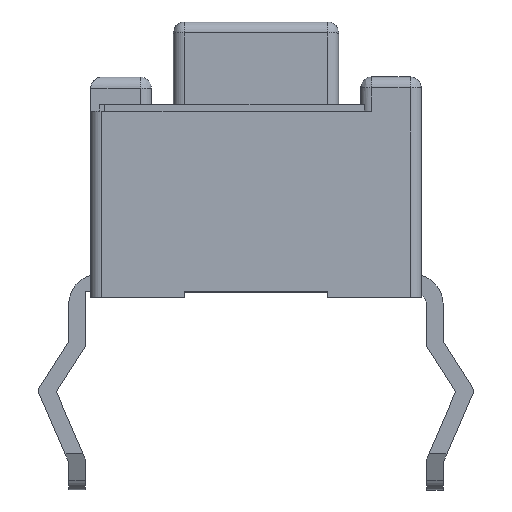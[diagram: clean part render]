
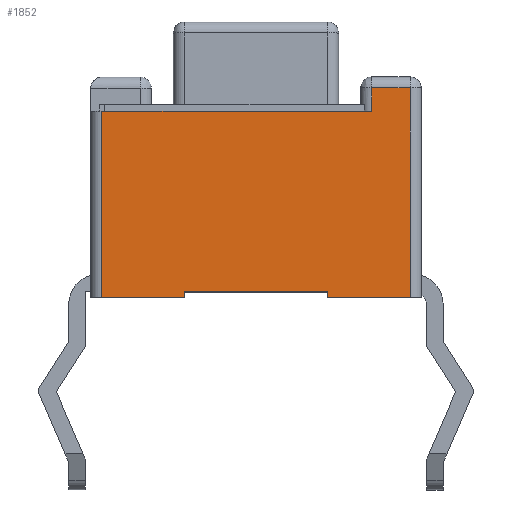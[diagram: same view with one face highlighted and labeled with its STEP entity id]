
A CAD part, top view. The second image highlights one B-rep face of the part: STEP entity #1852.
In plain terms, the highlighted planar face has unit normal (0, 0, 1).
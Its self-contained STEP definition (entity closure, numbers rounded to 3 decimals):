
#22 = VECTOR ( 'NONE', #3073, 1000. ) ;
#855 = EDGE_LOOP ( 'NONE', ( #1368, #1359, #1497, #1407, #1311, #1369, #1157, #1150, #1495, #1330 ) ) ;
#1150 = ORIENTED_EDGE ( 'NONE', *, *, #1809, .T. ) ;
#1157 = ORIENTED_EDGE ( 'NONE', *, *, #1808, .T. ) ;
#1168 = VERTEX_POINT ( 'NONE', #2563 ) ;
#1175 = VERTEX_POINT ( 'NONE', #2567 ) ;
#1214 = VERTEX_POINT ( 'NONE', #2584 ) ;
#1272 = VERTEX_POINT ( 'NONE', #2606 ) ;
#1311 = ORIENTED_EDGE ( 'NONE', *, *, #1684, .F. ) ;
#1328 = VERTEX_POINT ( 'NONE', #2623 ) ;
#1330 = ORIENTED_EDGE ( 'NONE', *, *, #1738, .F. ) ;
#1359 = ORIENTED_EDGE ( 'NONE', *, *, #1692, .F. ) ;
#1368 = ORIENTED_EDGE ( 'NONE', *, *, #1693, .F. ) ;
#1369 = ORIENTED_EDGE ( 'NONE', *, *, #1807, .F. ) ;
#1400 = VERTEX_POINT ( 'NONE', #2655 ) ;
#1407 = ORIENTED_EDGE ( 'NONE', *, *, #1686, .F. ) ;
#1470 = VERTEX_POINT ( 'NONE', #2687 ) ;
#1495 = ORIENTED_EDGE ( 'NONE', *, *, #1695, .F. ) ;
#1497 = ORIENTED_EDGE ( 'NONE', *, *, #1690, .F. ) ;
#1500 = VECTOR ( 'NONE', #2945, 1000. ) ;
#1503 = VECTOR ( 'NONE', #2939, 1000. ) ;
#1506 = VECTOR ( 'NONE', #2936, 1000. ) ;
#1507 = VECTOR ( 'NONE', #2930, 1000. ) ;
#1512 = VECTOR ( 'NONE', #2918, 1000. ) ;
#1515 = VECTOR ( 'NONE', #2912, 1000. ) ;
#1581 = VERTEX_POINT ( 'NONE', #2715 ) ;
#1591 = VERTEX_POINT ( 'NONE', #2722 ) ;
#1619 = VERTEX_POINT ( 'NONE', #2745 ) ;
#1684 = EDGE_CURVE ( 'NONE', #1400, #1214, #2910, .T. ) ;
#1686 = EDGE_CURVE ( 'NONE', #1214, #1272, #2916, .T. ) ;
#1690 = EDGE_CURVE ( 'NONE', #1272, #1328, #2928, .T. ) ;
#1692 = EDGE_CURVE ( 'NONE', #1328, #1168, #2934, .T. ) ;
#1693 = EDGE_CURVE ( 'NONE', #1168, #1470, #2937, .T. ) ;
#1695 = EDGE_CURVE ( 'NONE', #1591, #1175, #2943, .T. ) ;
#1738 = EDGE_CURVE ( 'NONE', #1470, #1591, #3071, .T. ) ;
#1807 = EDGE_CURVE ( 'NONE', #1619, #1400, #3794, .T. ) ;
#1808 = EDGE_CURVE ( 'NONE', #1619, #1581, #3797, .T. ) ;
#1809 = EDGE_CURVE ( 'NONE', #1581, #1175, #3800, .T. ) ;
#1852 = ADVANCED_FACE ( 'NONE', ( #3361 ), #3916, .F. ) ;
#2563 = CARTESIAN_POINT ( 'NONE',  ( 2.1, 3.8, -0.05 ) ) ;
#2567 = CARTESIAN_POINT ( 'NONE',  ( 1.3, 0., -0.05 ) ) ;
#2584 = CARTESIAN_POINT ( 'NONE',  ( -2.8, 0., -0.05 ) ) ;
#2606 = CARTESIAN_POINT ( 'NONE',  ( -2.8, 3.38, -0.05 ) ) ;
#2623 = CARTESIAN_POINT ( 'NONE',  ( 2.1, 3.38, -0.05 ) ) ;
#2655 = CARTESIAN_POINT ( 'NONE',  ( -1.3, 0., -0.05 ) ) ;
#2687 = CARTESIAN_POINT ( 'NONE',  ( 2.8, 3.8, -0.05 ) ) ;
#2715 = CARTESIAN_POINT ( 'NONE',  ( 1.3, 0.1, -0.05 ) ) ;
#2722 = CARTESIAN_POINT ( 'NONE',  ( 2.8, 0., -0.05 ) ) ;
#2745 = CARTESIAN_POINT ( 'NONE',  ( -1.3, 0.1, -0.05 ) ) ;
#2910 = LINE ( 'NONE', #2911, #1515 ) ;
#2911 = CARTESIAN_POINT ( 'NONE',  ( 2.8, 0., -0.05 ) ) ;
#2912 = DIRECTION ( 'NONE',  ( -1., 0., 0. ) ) ;
#2916 = LINE ( 'NONE', #2917, #1512 ) ;
#2917 = CARTESIAN_POINT ( 'NONE',  ( -2.8, 0., -0.05 ) ) ;
#2918 = DIRECTION ( 'NONE',  ( 0., 1., 0. ) ) ;
#2928 = LINE ( 'NONE', #2929, #1507 ) ;
#2929 = CARTESIAN_POINT ( 'NONE',  ( 2.8, 3.38, -0.05 ) ) ;
#2930 = DIRECTION ( 'NONE',  ( 1., 0., 0. ) ) ;
#2934 = LINE ( 'NONE', #2935, #1506 ) ;
#2935 = CARTESIAN_POINT ( 'NONE',  ( 2.1, 0., -0.05 ) ) ;
#2936 = DIRECTION ( 'NONE',  ( 0., 1., 0. ) ) ;
#2937 = LINE ( 'NONE', #2938, #1503 ) ;
#2938 = CARTESIAN_POINT ( 'NONE',  ( 2.8, 3.8, -0.05 ) ) ;
#2939 = DIRECTION ( 'NONE',  ( 1., 0., 0. ) ) ;
#2943 = LINE ( 'NONE', #2944, #1500 ) ;
#2944 = CARTESIAN_POINT ( 'NONE',  ( 2.8, 0., -0.05 ) ) ;
#2945 = DIRECTION ( 'NONE',  ( -1., 0., 0. ) ) ;
#3071 = LINE ( 'NONE', #3072, #22 ) ;
#3072 = CARTESIAN_POINT ( 'NONE',  ( 2.8, 0., -0.05 ) ) ;
#3073 = DIRECTION ( 'NONE',  ( 0., -1., 0. ) ) ;
#3322 = VECTOR ( 'NONE', #3796, 1000. ) ;
#3323 = VECTOR ( 'NONE', #3799, 1000. ) ;
#3324 = VECTOR ( 'NONE', #3802, 1000. ) ;
#3359 = AXIS2_PLACEMENT_3D ( 'NONE', #3929, #3930, #3931 ) ;
#3361 = FACE_OUTER_BOUND ( 'NONE', #855, .T. ) ;
#3794 = LINE ( 'NONE', #3795, #3322 ) ;
#3795 = CARTESIAN_POINT ( 'NONE',  ( -1.3, 0., -0.05 ) ) ;
#3796 = DIRECTION ( 'NONE',  ( 0., -1., 0. ) ) ;
#3797 = LINE ( 'NONE', #3798, #3323 ) ;
#3798 = CARTESIAN_POINT ( 'NONE',  ( -3., 0.1, -0.05 ) ) ;
#3799 = DIRECTION ( 'NONE',  ( 1., 0., 0. ) ) ;
#3800 = LINE ( 'NONE', #3801, #3324 ) ;
#3801 = CARTESIAN_POINT ( 'NONE',  ( 1.3, 0., -0.05 ) ) ;
#3802 = DIRECTION ( 'NONE',  ( 0., -1., 0. ) ) ;
#3916 = PLANE ( 'NONE',  #3359 ) ;
#3929 = CARTESIAN_POINT ( 'NONE',  ( 2.8, 0., -0.05 ) ) ;
#3930 = DIRECTION ( 'NONE',  ( 0., 0., -1. ) ) ;
#3931 = DIRECTION ( 'NONE',  ( -1., 0., 0. ) ) ;
